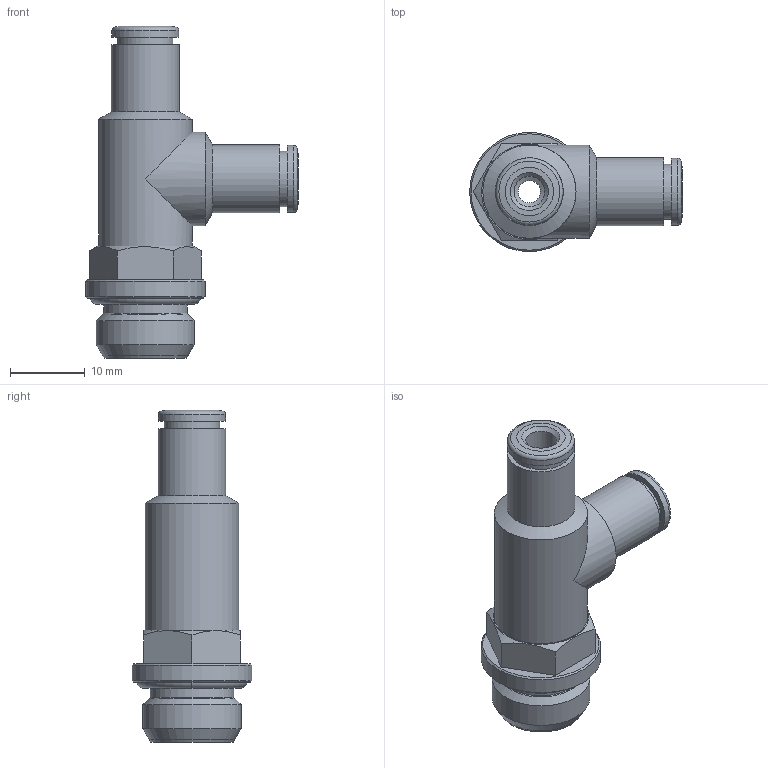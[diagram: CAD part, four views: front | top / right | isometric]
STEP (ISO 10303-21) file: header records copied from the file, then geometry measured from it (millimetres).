
FILE_DESCRIPTION(('Bauteilbeschreibung','HiCAD-Model','HiCAD-STEP-TRANSLATION','Bauteilbeschreibung'),'2;1');
FILE_NAME('B:/ABGLEICH/ZEICHNUNGEN/STEP FÜR INTERNET/STEP/IPSO 021/202102_IPSO_021_4_1-4.STP','2012-02-27T12:07:29+00:00',('Konstrukteur'),('Konstrukteur Firma GmbH'),' HiCAD neXt 2008, Step 3.1.1401.2J ','HiCAD neXt 2008','confidential');
FILE_SCHEMA(('AUTOMOTIVE_DESIGN { 1 2 10303 214 0 1 1 1 }'));
Length unit declared in the file: millimetre
Products named in the file (8): A02102_IPSO_021_4_1_4; DR4_1_NEU; DR4010NEU; OR 11_11X1_78; A14603_N2_GEW__1_8_1_4; A146030N20GEW001080104; G 1_4; R202101_N2
Assembly tree (7 placements, depth 3):
  A02102_IPSO_021_4_1_4
    DR4_1_NEU
    DR4010NEU
    OR 11_11X1_78
    A14603_N2_GEW__1_8_1_4
    A146030N20GEW001080104
      G 1_4
    R202101_N2
Bounding box: 28.5 x 16 x 44.5 mm (x, y, z)
Volume: 4382.5 mm3; surface area: 5436.7 mm2
Topology: 6 solids, 6 shells, 101 faces, 210 edges, 126 vertices
Faces by surface type: cone 34, cylinder 34, plane 25, torus 8
Full cylindrical faces by diameter (mm): 3 x2, 4.1 x4, 5.5 x1, 6 x1, 6.4 x2, 7.3 x2, 7.4 x2, 7.6 x2, 7.7 x2, 8.5 x1, 9 x4, 9.1 x2, 10.1 x2, 11.2 x1, 11.445 x2, 12.5 x2, 13.157 x1, 16 x1
Entity records: 3571 total; most frequent: CARTESIAN_POINT 1008, DIRECTION 440, ORIENTED_EDGE 236, AXIS2_PLACEMENT_3D 214, EDGE_LOOP 194, EDGE_CURVE 118, COLOUR_RGB 115, PRESENTATION_STYLE_ASSIGNMENT 115
